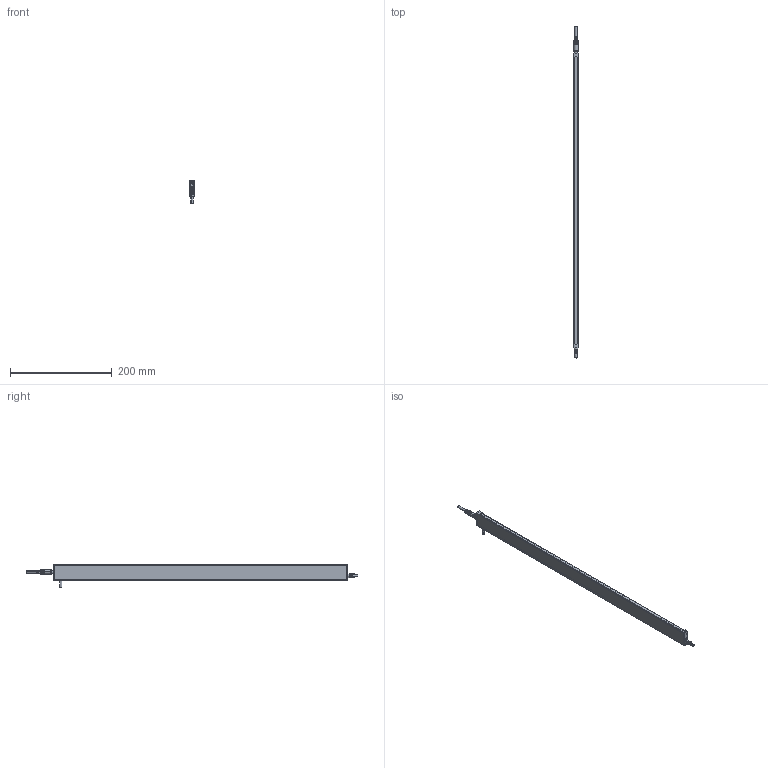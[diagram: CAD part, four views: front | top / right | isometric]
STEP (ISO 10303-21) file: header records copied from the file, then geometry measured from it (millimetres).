
FILE_DESCRIPTION (( 'STEP AP214' ), '1' );
FILE_NAME ('ILG-B-K2-0580mm.STEP', '2017-07-10T12:46:36', ( '' ), ( '' ), 'SwSTEP 2.0', 'SolidWorks 2016', '' );
FILE_SCHEMA (( 'AUTOMOTIVE_DESIGN' ));
Length unit declared in the file: millimetre
Products named in the file (1): ILG-B-K2-0580mm
Bounding box: 9 x 653.5 x 46.21 mm (x, y, z)
Surface area: 100657.2 mm2 (no closed solid volume)
Topology: 0 solids, 14 shells, 693 faces, 1806 edges, 1147 vertices
Faces by surface type: cylinder 283, plane 263, cone 97, bspline 32, torus 18
Entity records: 31061 total; most frequent: CARTESIAN_POINT 6596, ORIENTED_EDGE 3565, DIRECTION 3444, EDGE_CURVE 1790, AXIS2_PLACEMENT_3D 1323, VERTEX_POINT 1147, VECTOR 798, LINE 798
